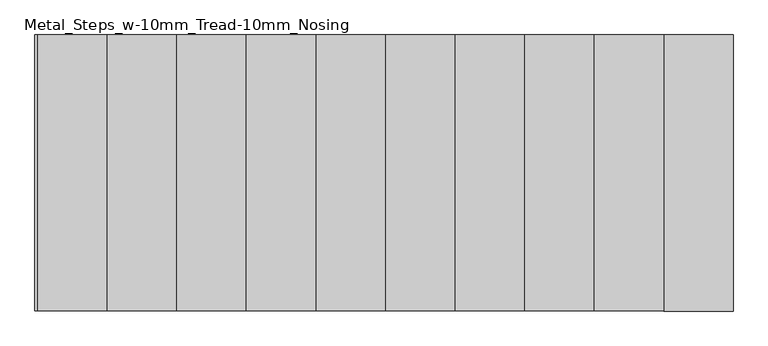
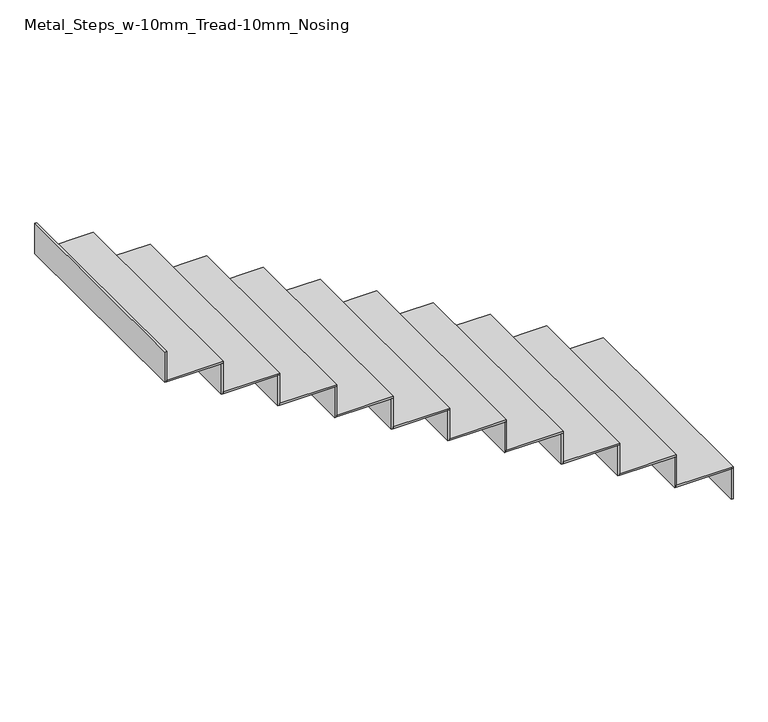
"""IFC4 building model written with IfcOpenShell, lengths in millimetres: stair flight geometry, Metal_Steps_w-10mm_Tread-10mm_Nosing."""

from ifc_helpers import new_model, si_unit, frame, origin, place, context, project, spatial, polyline, outline, extrude, source, transform, mapped, element, save


def metal_steps_w_10mm_tread_10mm_nosing_8405bb09(model_context):
    return source(origin(), model_context, "Body", "SweptSolid", [
        extrude(outline(polyline([(2188.5041438, 12254.6238126), (2198.5041438, 12254.6238126), (2198.5041438, 11064.6238126), (2188.5041438, 11064.6238126), (2188.5041438, 12254.6238126)])), frame((0.0, 0.0, 16875.0), z_axis=(0.0, 0.0, 1.0), x_axis=(1.0, 0.0, 0.0)), (0.0, 0.0, 1.0), 170.4545455),
        extrude(outline(polyline([(1898.5041438, 11064.6238126), (1898.5041438, 12254.6238126), (2198.5041438, 12254.6238126), (2198.5041438, 11064.6238126), (1898.5041438, 11064.6238126)])), frame((0.0, 0.0, 17045.4545455), z_axis=(0.0, 0.0, 1.0), x_axis=(1.0, 0.0, 0.0)), (0.0, 0.0, 1.0), 10.0),
        extrude(outline(polyline([(1888.5041438, 12254.6238126), (1898.5041438, 12254.6238126), (1898.5041438, 11064.6238126), (1888.5041438, 11064.6238126), (1888.5041438, 12254.6238126)])), frame((0.0, 0.0, 17045.4545455), z_axis=(0.0, 0.0, 1.0), x_axis=(1.0, 0.0, 0.0)), (0.0, 0.0, 1.0), 170.4545455),
        extrude(outline(polyline([(1598.5041438, 11064.6238126), (1598.5041438, 12254.6238126), (1898.5041438, 12254.6238126), (1898.5041438, 11064.6238126), (1598.5041438, 11064.6238126)])), frame((0.0, 0.0, 17215.9090909), z_axis=(0.0, 0.0, 1.0), x_axis=(1.0, 0.0, 0.0)), (0.0, 0.0, 1.0), 10.0),
        extrude(outline(polyline([(1588.5041438, 12254.6238126), (1598.5041438, 12254.6238126), (1598.5041438, 11064.6238126), (1588.5041438, 11064.6238126), (1588.5041438, 12254.6238126)])), frame((0.0, 0.0, 17215.9090909), z_axis=(0.0, 0.0, 1.0), x_axis=(1.0, 0.0, 0.0)), (0.0, 0.0, 1.0), 170.4545455),
        extrude(outline(polyline([(1298.5041438, 11064.6238126), (1298.5041438, 12254.6238126), (1598.5041438, 12254.6238126), (1598.5041438, 11064.6238126), (1298.5041438, 11064.6238126)])), frame((0.0, 0.0, 17386.3636364), z_axis=(0.0, 0.0, 1.0), x_axis=(1.0, 0.0, 0.0)), (0.0, 0.0, 1.0), 10.0),
        extrude(outline(polyline([(1288.5041438, 12254.6238126), (1298.5041438, 12254.6238126), (1298.5041438, 11064.6238126), (1288.5041438, 11064.6238126), (1288.5041438, 12254.6238126)])), frame((0.0, 0.0, 17386.3636364), z_axis=(0.0, 0.0, 1.0), x_axis=(1.0, 0.0, 0.0)), (0.0, 0.0, 1.0), 170.4545455),
        extrude(outline(polyline([(998.5041438, 11064.6238126), (998.5041438, 12254.6238126), (1298.5041438, 12254.6238126), (1298.5041438, 11064.6238126), (998.5041438, 11064.6238126)])), frame((0.0, 0.0, 17556.8181818), z_axis=(0.0, 0.0, 1.0), x_axis=(1.0, 0.0, 0.0)), (0.0, 0.0, 1.0), 10.0),
        extrude(outline(polyline([(988.5041438, 12254.6238126), (998.5041438, 12254.6238126), (998.5041438, 11064.6238126), (988.5041438, 11064.6238126), (988.5041438, 12254.6238126)])), frame((0.0, 0.0, 17556.8181818), z_axis=(0.0, 0.0, 1.0), x_axis=(1.0, 0.0, 0.0)), (0.0, 0.0, 1.0), 170.4545455),
        extrude(outline(polyline([(698.5041438, 11064.6238126), (698.5041438, 12254.6238126), (998.5041438, 12254.6238126), (998.5041438, 11064.6238126), (698.5041438, 11064.6238126)])), frame((0.0, 0.0, 17727.2727273), z_axis=(0.0, 0.0, 1.0), x_axis=(1.0, 0.0, 0.0)), (0.0, 0.0, 1.0), 10.0),
        extrude(outline(polyline([(688.5041438, 12254.6238126), (698.5041438, 12254.6238126), (698.5041438, 11064.6238126), (688.5041438, 11064.6238126), (688.5041438, 12254.6238126)])), frame((0.0, 0.0, 17727.2727273), z_axis=(0.0, 0.0, 1.0), x_axis=(1.0, 0.0, 0.0)), (0.0, 0.0, 1.0), 170.4545455),
        extrude(outline(polyline([(398.5041438, 11064.6238126), (398.5041438, 12254.6238126), (698.5041438, 12254.6238126), (698.5041438, 11064.6238126), (398.5041438, 11064.6238126)])), frame((0.0, 0.0, 17897.7272727), z_axis=(0.0, 0.0, 1.0), x_axis=(1.0, 0.0, 0.0)), (0.0, 0.0, 1.0), 10.0),
        extrude(outline(polyline([(388.5041438, 12254.6238126), (398.5041438, 12254.6238126), (398.5041438, 11064.6238126), (388.5041438, 11064.6238126), (388.5041438, 12254.6238126)])), frame((0.0, 0.0, 17897.7272727), z_axis=(0.0, 0.0, 1.0), x_axis=(1.0, 0.0, 0.0)), (0.0, 0.0, 1.0), 170.4545455),
        extrude(outline(polyline([(98.5041438, 11064.6238126), (98.5041438, 12254.6238126), (398.5041438, 12254.6238126), (398.5041438, 11064.6238126), (98.5041438, 11064.6238126)])), frame((0.0, 0.0, 18068.1818182), z_axis=(0.0, 0.0, 1.0), x_axis=(1.0, 0.0, 0.0)), (0.0, 0.0, 1.0), 10.0),
        extrude(outline(polyline([(88.5041438, 12254.6238126), (98.5041438, 12254.6238126), (98.5041438, 11064.6238126), (88.5041438, 11064.6238126), (88.5041438, 12254.6238126)])), frame((0.0, 0.0, 18068.1818182), z_axis=(0.0, 0.0, 1.0), x_axis=(1.0, 0.0, 0.0)), (0.0, 0.0, 1.0), 170.4545455),
        extrude(outline(polyline([(-201.4958562, 11064.6238126), (-201.4958562, 12254.6238126), (98.5041438, 12254.6238126), (98.5041438, 11064.6238126), (-201.4958562, 11064.6238126)])), frame((0.0, 0.0, 18238.6363636), z_axis=(0.0, 0.0, 1.0), x_axis=(1.0, 0.0, 0.0)), (0.0, 0.0, 1.0), 10.0),
        extrude(outline(polyline([(-211.4958562, 12254.6238126), (-201.4958562, 12254.6238126), (-201.4958562, 11064.6238126), (-211.4958562, 11064.6238126), (-211.4958562, 12254.6238126)])), frame((0.0, 0.0, 18238.6363636), z_axis=(0.0, 0.0, 1.0), x_axis=(1.0, 0.0, 0.0)), (0.0, 0.0, 1.0), 170.4545455),
        extrude(outline(polyline([(-501.4958562, 11064.6238126), (-501.4958562, 12254.6238126), (-201.4958562, 12254.6238126), (-201.4958562, 11064.6238126), (-501.4958562, 11064.6238126)])), frame((0.0, 0.0, 18409.0909091), z_axis=(0.0, 0.0, 1.0), x_axis=(1.0, 0.0, 0.0)), (0.0, 0.0, 1.0), 10.0),
        extrude(outline(polyline([(-511.4958562, 12254.6238126), (-501.4958562, 12254.6238126), (-501.4958562, 11064.6238126), (-511.4958562, 11064.6238126), (-511.4958562, 12254.6238126)])), frame((0.0, 0.0, 18409.0909091), z_axis=(0.0, 0.0, 1.0), x_axis=(1.0, 0.0, 0.0)), (0.0, 0.0, 1.0), 170.4545455),
        extrude(outline(polyline([(-811.4958562, 12254.6238126), (-801.4958562, 12254.6238126), (-801.4958562, 11064.6238126), (-811.4958562, 11064.6238126), (-811.4958562, 12254.6238126)])), frame((0.0, 0.0, 18579.5454545), z_axis=(0.0, 0.0, 1.0), x_axis=(1.0, 0.0, 0.0)), (0.0, 0.0, 1.0), 170.4545455),
        extrude(outline(polyline([(-801.4958562, 11064.6238126), (-801.4958562, 12254.6238126), (-501.4958562, 12254.6238126), (-501.4958562, 11064.6238126), (-801.4958562, 11064.6238126)])), frame((0.0, 0.0, 18579.5454545), z_axis=(0.0, 0.0, 1.0), x_axis=(1.0, 0.0, 0.0)), (0.0, 0.0, 1.0), 10.0),
    ])


if __name__ == "__main__":
    model = new_model("IFC4")
    model_context = context("Model", 3, world=origin())
    ifc_project = project(units=[si_unit("LENGTHUNIT", "METRE", prefix="MILLI")], contexts=[model_context])
    site = spatial("IfcSite", under=ifc_project)
    building = spatial("IfcBuilding", under=site)
    placement = place(None, origin())
    metal_steps_w_10mm_tread_10mm_nosing_shape = metal_steps_w_10mm_tread_10mm_nosing_8405bb09(model_context)
    element("IfcStairFlight", 1, ObjectType="Metal_Steps_w-10mm_Tread-10mm_Nosing", at=placement, inside=building, context=model_context, shape_type="MappedRepresentation", body=[
        mapped(metal_steps_w_10mm_tread_10mm_nosing_shape, transform((0.0, 0.0, 0.0), x_axis=(1.0, 0.0, 0.0), y_axis=(0.0, 1.0, 0.0), z_axis=(0.0, 0.0, 1.0))),
    ])
    save(model, "model.ifc")
